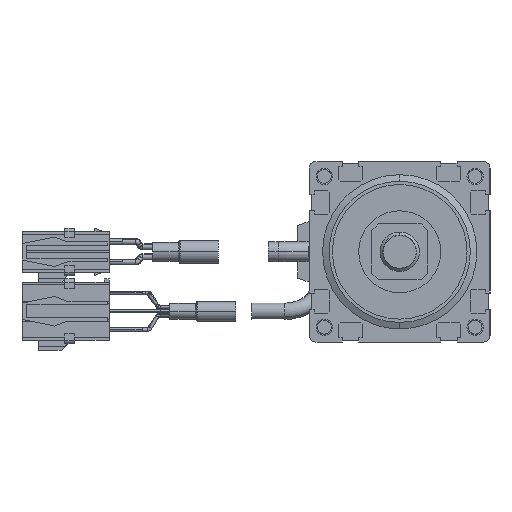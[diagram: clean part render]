
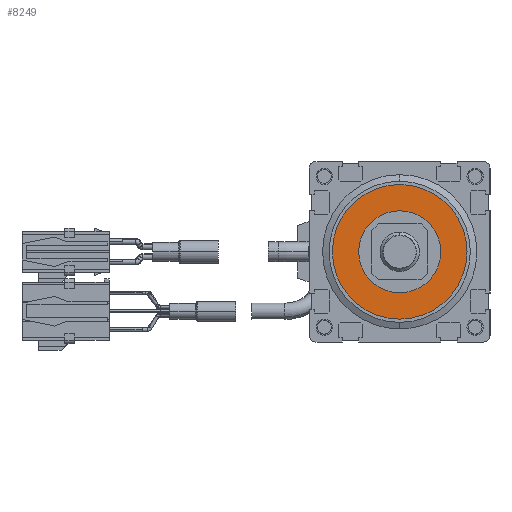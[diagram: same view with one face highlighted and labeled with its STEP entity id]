
A CAD part, left-side view. The second image highlights one B-rep face of the part: STEP entity #8249.
In plain terms, the highlighted planar face has unit normal (-1, 0, 0).
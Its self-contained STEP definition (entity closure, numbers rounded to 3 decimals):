
#1969=CARTESIAN_POINT('',(-191.,0.,0.));
#1970=DIRECTION('',(1.,0.,0.));
#1971=DIRECTION('',(0.,1.,0.));
#1972=AXIS2_PLACEMENT_3D('',#1969,#1970,#1971);
#1974=CARTESIAN_POINT('',(-191.,0.,0.));
#1975=DIRECTION('',(1.,0.,0.));
#1976=DIRECTION('',(0.,-1.,0.));
#1977=AXIS2_PLACEMENT_3D('',#1974,#1975,#1976);
#1979=CARTESIAN_POINT('',(-191.,0.,0.));
#1980=DIRECTION('',(-1.,0.,0.));
#1981=DIRECTION('',(0.,0.,1.));
#1982=AXIS2_PLACEMENT_3D('',#1979,#1980,#1981);
#1984=CARTESIAN_POINT('',(-191.,0.,0.));
#1985=DIRECTION('',(-1.,0.,0.));
#1986=DIRECTION('',(0.,0.,-1.));
#1987=AXIS2_PLACEMENT_3D('',#1984,#1985,#1986);
#4237=CARTESIAN_POINT('',(-191.,20.5,0.));
#4238=VERTEX_POINT('',#4237);
#4239=CARTESIAN_POINT('',(-191.,-20.5,0.));
#4240=VERTEX_POINT('',#4239);
#5371=CARTESIAN_POINT('',(-191.,0.,12.5));
#5372=CARTESIAN_POINT('',(-191.,0.,-12.5));
#5373=VERTEX_POINT('',#5371);
#5374=VERTEX_POINT('',#5372);
#8234=CARTESIAN_POINT('',(-191.,0.,0.));
#8235=DIRECTION('',(1.,0.,0.));
#8236=DIRECTION('',(0.,1.,0.));
#8237=AXIS2_PLACEMENT_3D('',#8234,#8235,#8236);
#8238=PLANE('',#8237);
#8239=ORIENTED_EDGE('',*,*,#8214,.T.);
#8240=ORIENTED_EDGE('',*,*,#8228,.T.);
#8241=EDGE_LOOP('',(#8239,#8240));
#8242=FACE_OUTER_BOUND('',#8241,.F.);
#8244=ORIENTED_EDGE('',*,*,#8243,.T.);
#8246=ORIENTED_EDGE('',*,*,#8245,.T.);
#8247=EDGE_LOOP('',(#8244,#8246));
#8248=FACE_BOUND('',#8247,.F.);
#8249=ADVANCED_FACE('',(#8242,#8248),#8238,.F.);
#1973=CIRCLE('',#1972,20.5);
#1978=CIRCLE('',#1977,20.5);
#1983=CIRCLE('',#1982,12.5);
#1988=CIRCLE('',#1987,12.5);
#8214=EDGE_CURVE('',#4238,#4240,#1973,.T.);
#8228=EDGE_CURVE('',#4240,#4238,#1978,.T.);
#8243=EDGE_CURVE('',#5373,#5374,#1983,.T.);
#8245=EDGE_CURVE('',#5374,#5373,#1988,.T.);
